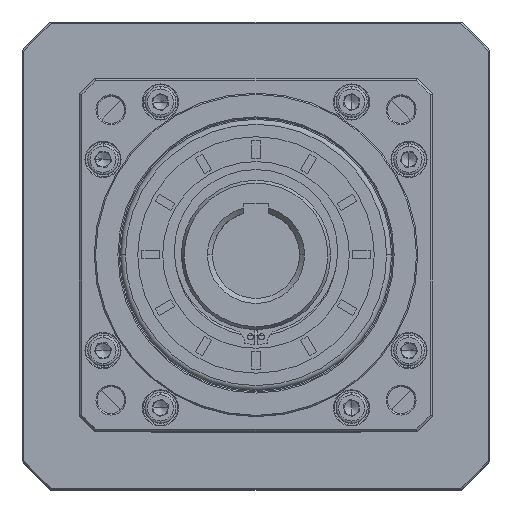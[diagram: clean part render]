
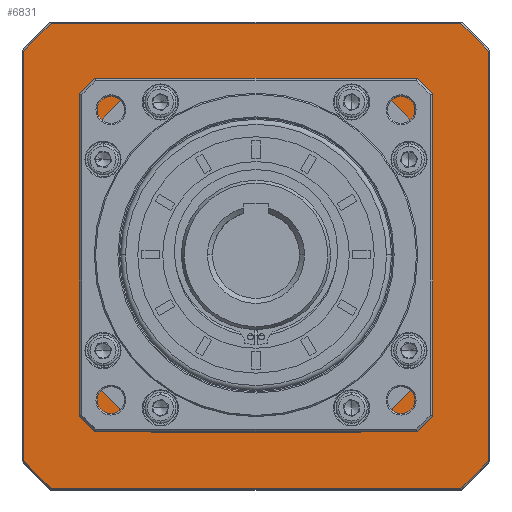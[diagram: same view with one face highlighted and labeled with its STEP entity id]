
A CAD part, top view. The second image highlights one B-rep face of the part: STEP entity #6831.
In plain terms, the highlighted planar face has unit normal (0, 0, 1).
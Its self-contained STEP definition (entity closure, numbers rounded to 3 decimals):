
#2800 = CARTESIAN_POINT ( 'NONE',  ( 273.048, 39.514, -9.295 ) ) ;
#4727 = ORIENTED_EDGE ( 'NONE', *, *, #90206, .F. ) ;
#5506 = EDGE_CURVE ( 'NONE', #39452, #28044, #75678, .T. ) ;
#5689 = LINE ( 'NONE', #42374, #23977 ) ;
#6304 = VECTOR ( 'NONE', #88148, 1000. ) ;
#6717 = CARTESIAN_POINT ( 'NONE',  ( 179.548, 121.721, -9.295 ) ) ;
#6747 = CARTESIAN_POINT ( 'NONE',  ( 97.341, 215.221, -9.295 ) ) ;
#6831 = ADVANCED_FACE ( 'NONE', ( #42788, #37204 ), #79579, .F. ) ;
#7255 = ORIENTED_EDGE ( 'NONE', *, *, #55070, .F. ) ;
#8164 = CARTESIAN_POINT ( 'NONE',  ( 179.548, 28.221, -9.295 ) ) ;
#10376 = VERTEX_POINT ( 'NONE', #114445 ) ;
#10782 = EDGE_CURVE ( 'NONE', #54378, #92413, #21768, .T. ) ;
#11488 = VERTEX_POINT ( 'NONE', #78637 ) ;
#13279 = ORIENTED_EDGE ( 'NONE', *, *, #16487, .F. ) ;
#13657 = DIRECTION ( 'NONE',  ( 1., 0., 0. ) ) ;
#13729 = CARTESIAN_POINT ( 'NONE',  ( 179.548, 121.721, -9.295 ) ) ;
#15435 = DIRECTION ( 'NONE',  ( 1., 0., 0. ) ) ;
#15632 = DIRECTION ( 'NONE',  ( -1., 0., 0. ) ) ;
#15806 = CARTESIAN_POINT ( 'NONE',  ( 179.548, 121.721, -9.295 ) ) ;
#16487 = EDGE_CURVE ( 'NONE', #93003, #86872, #23934, .T. ) ;
#16910 = ORIENTED_EDGE ( 'NONE', *, *, #5506, .F. ) ;
#16949 = CARTESIAN_POINT ( 'NONE',  ( 250.048, 121.721, -9.295 ) ) ;
#17040 = CARTESIAN_POINT ( 'NONE',  ( 97.341, 28.221, -9.295 ) ) ;
#17440 = CARTESIAN_POINT ( 'NONE',  ( 261.755, 215.221, -9.295 ) ) ;
#17597 = DIRECTION ( 'NONE',  ( 0., 0., 1. ) ) ;
#17973 = CARTESIAN_POINT ( 'NONE',  ( 179.548, 121.721, -9.295 ) ) ;
#18072 = CIRCLE ( 'NONE', #46909, 124.5 ) ;
#19866 = CARTESIAN_POINT ( 'NONE',  ( 109.048, 163.599, -9.295 ) ) ;
#20875 = DIRECTION ( 'NONE',  ( 0., 0., -1. ) ) ;
#21768 = LINE ( 'NONE', #16949, #6304 ) ;
#22715 = VERTEX_POINT ( 'NONE', #45738 ) ;
#23298 = CARTESIAN_POINT ( 'NONE',  ( 250.048, 79.844, -9.295 ) ) ;
#23731 = ORIENTED_EDGE ( 'NONE', *, *, #56491, .F. ) ;
#23934 = CIRCLE ( 'NONE', #77692, 124.5 ) ;
#23977 = VECTOR ( 'NONE', #86519, 1000. ) ;
#25768 = EDGE_CURVE ( 'NONE', #54625, #93003, #32095, .T. ) ;
#25855 = DIRECTION ( 'NONE',  ( 0., 0., 1. ) ) ;
#27190 = CIRCLE ( 'NONE', #105314, 82. ) ;
#28044 = VERTEX_POINT ( 'NONE', #19866 ) ;
#29047 = EDGE_CURVE ( 'NONE', #44168, #11488, #54979, .T. ) ;
#29275 = ORIENTED_EDGE ( 'NONE', *, *, #29047, .F. ) ;
#30694 = ORIENTED_EDGE ( 'NONE', *, *, #83965, .F. ) ;
#32037 = DIRECTION ( 'NONE',  ( 0., 0., 1. ) ) ;
#32095 = LINE ( 'NONE', #75070, #36299 ) ;
#33036 = AXIS2_PLACEMENT_3D ( 'NONE', #93656, #20875, #84219 ) ;
#33513 = CIRCLE ( 'NONE', #96966, 124.5 ) ;
#33662 = CARTESIAN_POINT ( 'NONE',  ( 179.548, 121.721, -9.295 ) ) ;
#35420 = LINE ( 'NONE', #61049, #41015 ) ;
#35640 = ORIENTED_EDGE ( 'NONE', *, *, #101743, .F. ) ;
#36036 = DIRECTION ( 'NONE',  ( 0., -1., 0. ) ) ;
#36193 = CARTESIAN_POINT ( 'NONE',  ( 179.548, 121.721, -9.295 ) ) ;
#36299 = VECTOR ( 'NONE', #84794, 1000. ) ;
#36422 = CARTESIAN_POINT ( 'NONE',  ( 273.048, 203.928, -9.295 ) ) ;
#37204 = FACE_BOUND ( 'NONE', #86314, .T. ) ;
#39163 = CARTESIAN_POINT ( 'NONE',  ( 250.048, 163.599, -9.295 ) ) ;
#39452 = VERTEX_POINT ( 'NONE', #86427 ) ;
#41015 = VECTOR ( 'NONE', #97384, 1000. ) ;
#41134 = DIRECTION ( 'NONE',  ( 0., 0., -1. ) ) ;
#42374 = CARTESIAN_POINT ( 'NONE',  ( 179.548, 192.221, -9.295 ) ) ;
#42788 = FACE_OUTER_BOUND ( 'NONE', #75047, .T. ) ;
#44091 = CARTESIAN_POINT ( 'NONE',  ( 179.548, 51.221, -9.295 ) ) ;
#44168 = VERTEX_POINT ( 'NONE', #82776 ) ;
#45080 = VERTEX_POINT ( 'NONE', #51342 ) ;
#45738 = CARTESIAN_POINT ( 'NONE',  ( 261.755, 28.221, -9.295 ) ) ;
#45779 = DIRECTION ( 'NONE',  ( 1., 0., 0. ) ) ;
#46344 = CARTESIAN_POINT ( 'NONE',  ( 109.048, 79.844, -9.295 ) ) ;
#46909 = AXIS2_PLACEMENT_3D ( 'NONE', #84130, #100688, #47479 ) ;
#47479 = DIRECTION ( 'NONE',  ( -1., 0., 0. ) ) ;
#47942 = VECTOR ( 'NONE', #15632, 1000. ) ;
#49284 = CARTESIAN_POINT ( 'NONE',  ( 109.048, 121.721, -9.295 ) ) ;
#49689 = DIRECTION ( 'NONE',  ( 0., -1., 0. ) ) ;
#51342 = CARTESIAN_POINT ( 'NONE',  ( 86.048, 39.514, -9.295 ) ) ;
#51791 = DIRECTION ( 'NONE',  ( 0., 0., -1. ) ) ;
#51849 = CIRCLE ( 'NONE', #33036, 124.5 ) ;
#54378 = VERTEX_POINT ( 'NONE', #23298 ) ;
#54625 = VERTEX_POINT ( 'NONE', #6747 ) ;
#54979 = LINE ( 'NONE', #44091, #110927 ) ;
#55070 = EDGE_CURVE ( 'NONE', #22715, #84650, #108011, .T. ) ;
#55714 = AXIS2_PLACEMENT_3D ( 'NONE', #33662, #25855, #60739 ) ;
#56491 = EDGE_CURVE ( 'NONE', #90706, #54625, #33513, .T. ) ;
#59920 = AXIS2_PLACEMENT_3D ( 'NONE', #17973, #17597, #45779 ) ;
#60435 = ORIENTED_EDGE ( 'NONE', *, *, #106657, .F. ) ;
#60739 = DIRECTION ( 'NONE',  ( 1., 0., 0. ) ) ;
#61049 = CARTESIAN_POINT ( 'NONE',  ( 86.048, 121.721, -9.295 ) ) ;
#62332 = EDGE_CURVE ( 'NONE', #86872, #78071, #90647, .T. ) ;
#64779 = ORIENTED_EDGE ( 'NONE', *, *, #99133, .F. ) ;
#64924 = VECTOR ( 'NONE', #49689, 1000. ) ;
#66537 = CARTESIAN_POINT ( 'NONE',  ( 179.548, 121.721, -9.295 ) ) ;
#70049 = ORIENTED_EDGE ( 'NONE', *, *, #25768, .F. ) ;
#70273 = AXIS2_PLACEMENT_3D ( 'NONE', #36193, #98014, #99180 ) ;
#75047 = EDGE_LOOP ( 'NONE', ( #7255, #35640, #93932, #13279, #70049, #23731, #92819, #60435 ) ) ;
#75070 = CARTESIAN_POINT ( 'NONE',  ( 179.548, 215.221, -9.295 ) ) ;
#75280 = VECTOR ( 'NONE', #36036, 1000. ) ;
#75678 = CIRCLE ( 'NONE', #59920, 82. ) ;
#77325 = ORIENTED_EDGE ( 'NONE', *, *, #98231, .F. ) ;
#77467 = DIRECTION ( 'NONE',  ( -1., 0., 0. ) ) ;
#77692 = AXIS2_PLACEMENT_3D ( 'NONE', #13729, #41134, #77467 ) ;
#78071 = VERTEX_POINT ( 'NONE', #2800 ) ;
#78405 = DIRECTION ( 'NONE',  ( -1., 0., 0. ) ) ;
#78637 = CARTESIAN_POINT ( 'NONE',  ( 221.426, 51.221, -9.295 ) ) ;
#79579 = PLANE ( 'NONE',  #114731 ) ;
#81190 = ORIENTED_EDGE ( 'NONE', *, *, #114686, .F. ) ;
#82776 = CARTESIAN_POINT ( 'NONE',  ( 137.67, 51.221, -9.295 ) ) ;
#83752 = CIRCLE ( 'NONE', #55714, 82. ) ;
#83965 = EDGE_CURVE ( 'NONE', #11488, #54378, #83752, .T. ) ;
#84130 = CARTESIAN_POINT ( 'NONE',  ( 179.548, 121.721, -9.295 ) ) ;
#84219 = DIRECTION ( 'NONE',  ( -1., 0., 0. ) ) ;
#84650 = VERTEX_POINT ( 'NONE', #17040 ) ;
#84794 = DIRECTION ( 'NONE',  ( 1., 0., 0. ) ) ;
#86314 = EDGE_LOOP ( 'NONE', ( #81190, #109911, #30694, #29275, #77325, #4727, #16910, #64779 ) ) ;
#86427 = CARTESIAN_POINT ( 'NONE',  ( 137.67, 192.221, -9.295 ) ) ;
#86519 = DIRECTION ( 'NONE',  ( -1., 0., 0. ) ) ;
#86872 = VERTEX_POINT ( 'NONE', #36422 ) ;
#87702 = DIRECTION ( 'NONE',  ( 0., 1., 0. ) ) ;
#87954 = CARTESIAN_POINT ( 'NONE',  ( 86.048, 203.928, -9.295 ) ) ;
#88148 = DIRECTION ( 'NONE',  ( 0., 1., 0. ) ) ;
#88572 = DIRECTION ( 'NONE',  ( 0., 0., -1. ) ) ;
#90095 = LINE ( 'NONE', #49284, #64924 ) ;
#90206 = EDGE_CURVE ( 'NONE', #28044, #100112, #90095, .T. ) ;
#90647 = LINE ( 'NONE', #108749, #75280 ) ;
#90706 = VERTEX_POINT ( 'NONE', #87954 ) ;
#92413 = VERTEX_POINT ( 'NONE', #39163 ) ;
#92819 = ORIENTED_EDGE ( 'NONE', *, *, #98573, .F. ) ;
#93003 = VERTEX_POINT ( 'NONE', #17440 ) ;
#93656 = CARTESIAN_POINT ( 'NONE',  ( 179.548, 121.721, -9.295 ) ) ;
#93932 = ORIENTED_EDGE ( 'NONE', *, *, #62332, .F. ) ;
#96407 = CIRCLE ( 'NONE', #70273, 82. ) ;
#96966 = AXIS2_PLACEMENT_3D ( 'NONE', #6717, #51791, #87702 ) ;
#97384 = DIRECTION ( 'NONE',  ( 0., 1., 0. ) ) ;
#98014 = DIRECTION ( 'NONE',  ( 0., 0., 1. ) ) ;
#98231 = EDGE_CURVE ( 'NONE', #100112, #44168, #27190, .T. ) ;
#98573 = EDGE_CURVE ( 'NONE', #45080, #90706, #35420, .T. ) ;
#99133 = EDGE_CURVE ( 'NONE', #10376, #39452, #5689, .T. ) ;
#99180 = DIRECTION ( 'NONE',  ( 1., 0., 0. ) ) ;
#100112 = VERTEX_POINT ( 'NONE', #46344 ) ;
#100688 = DIRECTION ( 'NONE',  ( 0., 0., -1. ) ) ;
#101743 = EDGE_CURVE ( 'NONE', #78071, #22715, #51849, .T. ) ;
#105314 = AXIS2_PLACEMENT_3D ( 'NONE', #66537, #32037, #13657 ) ;
#106657 = EDGE_CURVE ( 'NONE', #84650, #45080, #18072, .T. ) ;
#108011 = LINE ( 'NONE', #8164, #47942 ) ;
#108749 = CARTESIAN_POINT ( 'NONE',  ( 273.048, 121.721, -9.295 ) ) ;
#109911 = ORIENTED_EDGE ( 'NONE', *, *, #10782, .F. ) ;
#110927 = VECTOR ( 'NONE', #15435, 1000. ) ;
#114445 = CARTESIAN_POINT ( 'NONE',  ( 221.426, 192.221, -9.295 ) ) ;
#114686 = EDGE_CURVE ( 'NONE', #92413, #10376, #96407, .T. ) ;
#114731 = AXIS2_PLACEMENT_3D ( 'NONE', #15806, #88572, #78405 ) ;
